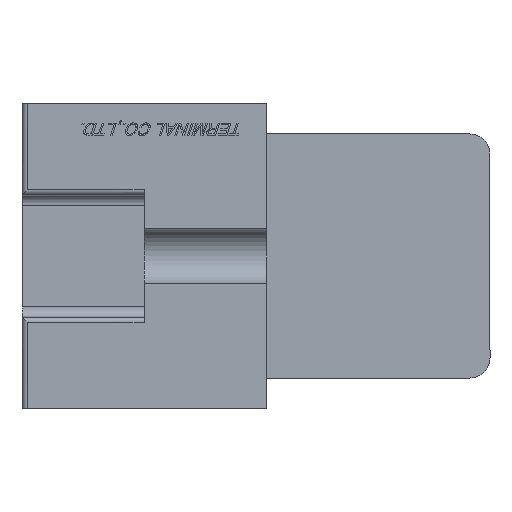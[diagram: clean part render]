
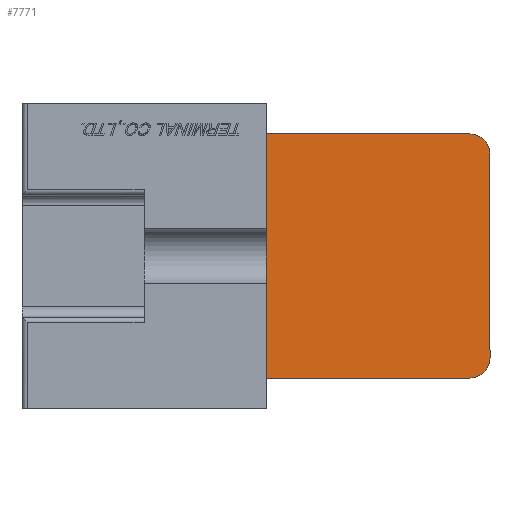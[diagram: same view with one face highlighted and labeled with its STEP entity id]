
A CAD part, left-side view. The second image highlights one B-rep face of the part: STEP entity #7771.
In plain terms, the highlighted planar face has unit normal (-1, 0, 0).
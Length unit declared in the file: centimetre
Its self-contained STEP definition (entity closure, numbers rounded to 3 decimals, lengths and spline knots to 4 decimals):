
#596=PLANE('',#13431);
#770=CIRCLE('',#13369,0.2);
#772=CIRCLE('',#13373,0.2);
#1529=VERTEX_POINT('',#12587);
#1530=VERTEX_POINT('',#12589);
#1541=VERTEX_POINT('',#12680);
#1542=VERTEX_POINT('',#12684);
#1570=VERTEX_POINT('',#12803);
#1571=VERTEX_POINT('',#12805);
#2248=VECTOR('',#9281,1.);
#2285=VECTOR('',#9415,1.);
#2287=VECTOR('',#9418,1.);
#2288=VECTOR('',#9420,1.);
#2945=LINE('',#12679,#2248);
#2982=LINE('',#12804,#2285);
#2984=LINE('',#12808,#2287);
#2985=LINE('',#12810,#2288);
#3984=EDGE_CURVE('',#1529,#1530,#770,.T.);
#3997=EDGE_CURVE('',#1541,#1530,#2945,.T.);
#3999=EDGE_CURVE('',#1541,#1542,#772,.T.);
#4063=EDGE_CURVE('',#1570,#1571,#2982,.T.);
#4065=EDGE_CURVE('',#1570,#1542,#2984,.T.);
#4066=EDGE_CURVE('',#1571,#1529,#2985,.T.);
#6231=ORIENTED_EDGE('',*,*,#3984,.F.);
#6232=ORIENTED_EDGE('',*,*,#4066,.F.);
#6233=ORIENTED_EDGE('',*,*,#4063,.F.);
#6234=ORIENTED_EDGE('',*,*,#4065,.T.);
#6235=ORIENTED_EDGE('',*,*,#3999,.F.);
#6236=ORIENTED_EDGE('',*,*,#3997,.T.);
#6778=EDGE_LOOP('',(#6231,#6232,#6233,#6234,#6235,#6236));
#7309=FACE_BOUND('',#6778,.T.);
#7771=ADVANCED_FACE('',(#7309),#596,.T.);
#9268=DIRECTION('',(1.,0.,0.));
#9269=DIRECTION('',(0.,-0.141,-0.141));
#9281=DIRECTION('',(0.,-1.,0.));
#9285=DIRECTION('',(1.,0.,0.));
#9286=DIRECTION('',(0.,0.141,-0.141));
#9415=DIRECTION('',(0.,-1.,0.));
#9418=DIRECTION('',(0.,0.,-1.));
#9419=DIRECTION('',(-1.,0.,0.));
#9420=DIRECTION('',(0.,0.,-1.));
#12587=CARTESIAN_POINT('',(1.3,-1.2,-2.));
#12588=CARTESIAN_POINT('',(1.3,-1.,-2.));
#12589=CARTESIAN_POINT('',(1.3,-1.,-2.2));
#12679=CARTESIAN_POINT('',(1.3,1.2,-2.2));
#12680=CARTESIAN_POINT('',(1.3,1.,-2.2));
#12683=CARTESIAN_POINT('',(1.3,1.,-2.));
#12684=CARTESIAN_POINT('',(1.3,1.2,-2.));
#12803=CARTESIAN_POINT('',(1.3,1.2,0.));
#12804=CARTESIAN_POINT('',(1.3,0.,0.));
#12805=CARTESIAN_POINT('',(1.3,-1.2,0.));
#12808=CARTESIAN_POINT('',(1.3,1.2,0.));
#12809=CARTESIAN_POINT('',(1.3,0.,0.));
#12810=CARTESIAN_POINT('',(1.3,-1.2,0.));
#13369=AXIS2_PLACEMENT_3D('',#12588,#9268,#9269);
#13373=AXIS2_PLACEMENT_3D('',#12683,#9285,#9286);
#13431=AXIS2_PLACEMENT_3D('',#12809,#9419,$);
